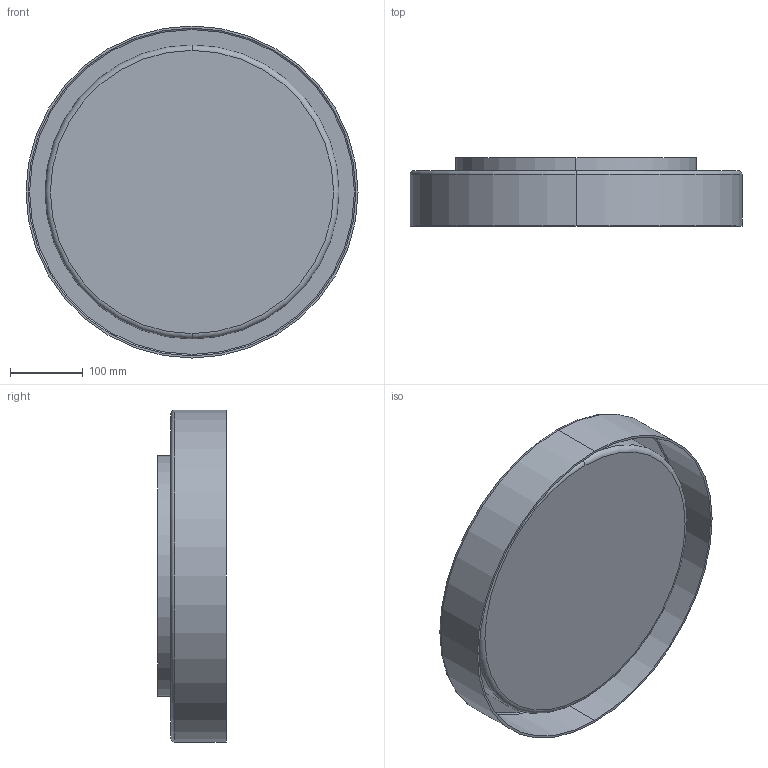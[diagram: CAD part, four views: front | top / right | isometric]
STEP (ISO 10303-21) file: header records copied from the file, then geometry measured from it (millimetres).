
FILE_DESCRIPTION (( 'STEP AP203' ), '1' );
FILE_NAME ('FM48618.STEP', '2023-08-04T18:35:23', ( '' ), ( '' ), 'SwSTEP 2.0', 'SolidWorks 2018', '' );
FILE_SCHEMA (( 'CONFIG_CONTROL_DESIGN' ));
Length unit declared in the file: millimetre
Products named in the file (1): FM48618
Bounding box: 457.4 x 94 x 457.4 mm (x, y, z)
Volume: 1009793.3 mm3; surface area: 848200.4 mm2
Topology: 2 solids, 2 shells, 38 faces, 74 edges, 44 vertices
Faces by surface type: torus 16, cylinder 14, plane 8
Entity records: 1069 total; most frequent: DIRECTION 212, CARTESIAN_POINT 157, ORIENTED_EDGE 148, AXIS2_PLACEMENT_3D 99, EDGE_CURVE 74, CIRCLE 60, VERTEX_POINT 44, EDGE_LOOP 44
